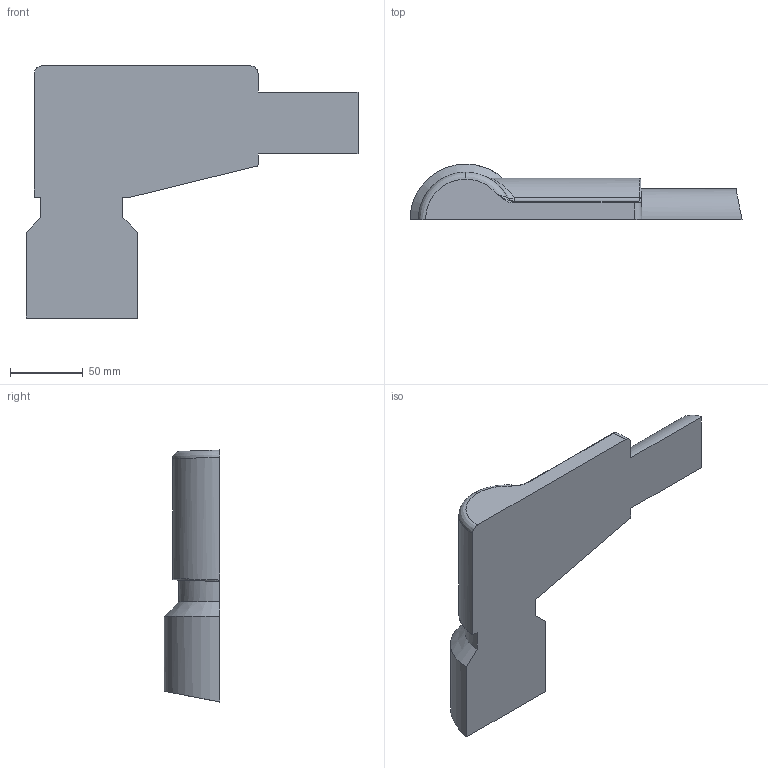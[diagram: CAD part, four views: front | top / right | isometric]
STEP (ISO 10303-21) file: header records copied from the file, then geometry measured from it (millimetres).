
FILE_DESCRIPTION (( 'STEP AP203' ), '1' );
FILE_NAME ('DEMI MODELE de dessus.STEP', '2010-02-02T13:24:26', ( ' ' ), ( ' ' ), 'SwSTEP 2.0', 'SolidWorks 2009', '' );
FILE_SCHEMA (( 'CONFIG_CONTROL_DESIGN' ));
Length unit declared in the file: millimetre
Products named in the file (1): DEMI MODELE de dessus
Bounding box: 227.88 x 38.25 x 172.99 mm (x, y, z)
Volume: 492480.7 mm3; surface area: 58842.5 mm2
Topology: 1 solids, 1 shells, 42 faces, 100 edges, 57 vertices
Faces by surface type: cylinder 15, bspline 13, plane 9, sphere 4, cone 1
Entity records: 2002 total; most frequent: CARTESIAN_POINT 1109, ORIENTED_EDGE 194, DIRECTION 147, EDGE_CURVE 97, VERTEX_POINT 57, AXIS2_PLACEMENT_3D 55, EDGE_LOOP 42, ADVANCED_FACE 42
